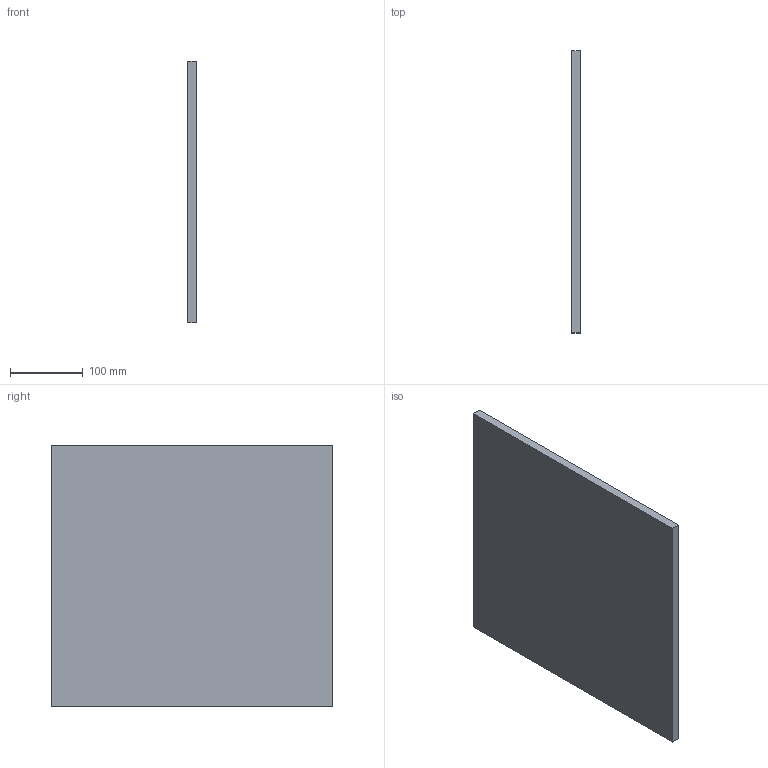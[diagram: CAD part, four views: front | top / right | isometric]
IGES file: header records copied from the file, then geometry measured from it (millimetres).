
Start section: Data from Parasolid IGES Translator 19.0.9, Copyright(c) 2006 Siemens PL M Software. All Rights Reserved.
Global section: file name: noorth-SI-H 36 D 38,8 W 1,2_9029.igs; native system: By Siemens PLM Incorporated; preprocessor: XPlus GENERIC/IGES 19.0.9; author: Noname; organization: Noname; date: 20200710.084159; units: metre
Bounding box: 12 x 388 x 360 mm (x, y, z)
Volume: 1676160 mm3; surface area: 297312 mm2
Topology: 1 solids, 1 shells, 6 faces, 12 edges, 8 vertices
Faces by surface type: plane 6
